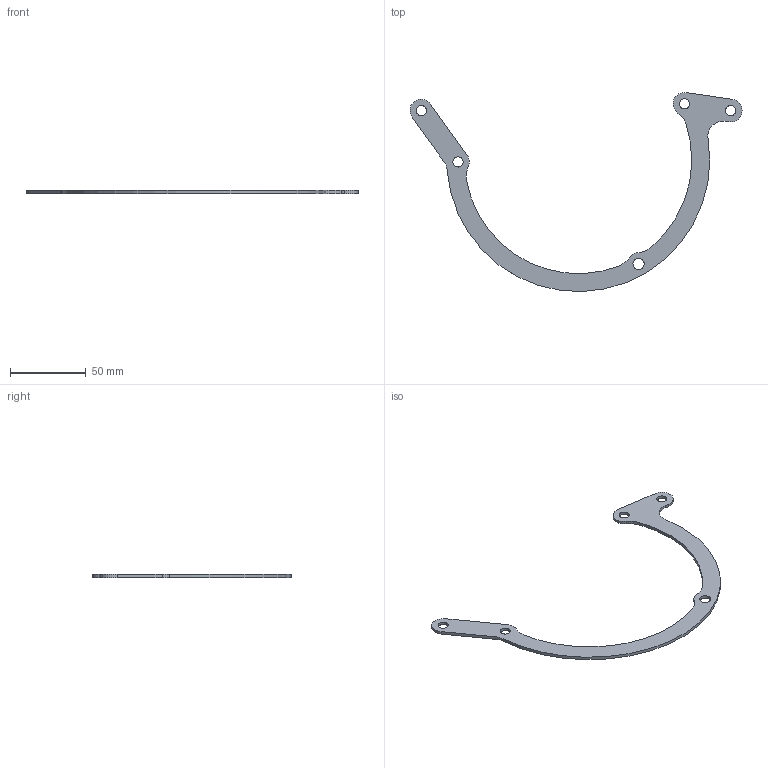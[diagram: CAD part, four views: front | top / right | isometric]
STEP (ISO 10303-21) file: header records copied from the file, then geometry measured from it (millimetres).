
FILE_DESCRIPTION (( 'STEP AP214' ), '1' );
FILE_NAME ('RC51 (SP2) - SPAL Bracket(R).STEP', '2025-09-02T18:35:09', ( '' ), ( '' ), 'SwSTEP 2.0', 'SolidWorks 2020', '' );
FILE_SCHEMA (( 'AUTOMOTIVE_DESIGN' ));
Length unit declared in the file: millimetre
Products named in the file (1): RC51 (SP2) - SPAL Bracket(R)
Bounding box: 219.22 x 131.46 x 1.98 mm (x, y, z)
Volume: 9150.6 mm3; surface area: 10951.4 mm2
Topology: 1 solids, 1 shells, 25 faces, 69 edges, 46 vertices
Faces by surface type: cylinder 19, plane 6
Full cylindrical faces by diameter (mm): 6.75 x4, 7.5 x1
Entity records: 850 total; most frequent: DIRECTION 154, CARTESIAN_POINT 136, ORIENTED_EDGE 128, EDGE_CURVE 64, AXIS2_PLACEMENT_3D 64, VERTEX_POINT 46, EDGE_LOOP 40, CIRCLE 38
